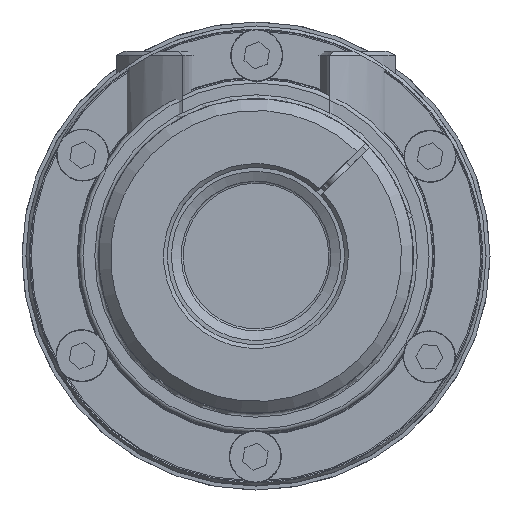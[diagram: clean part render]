
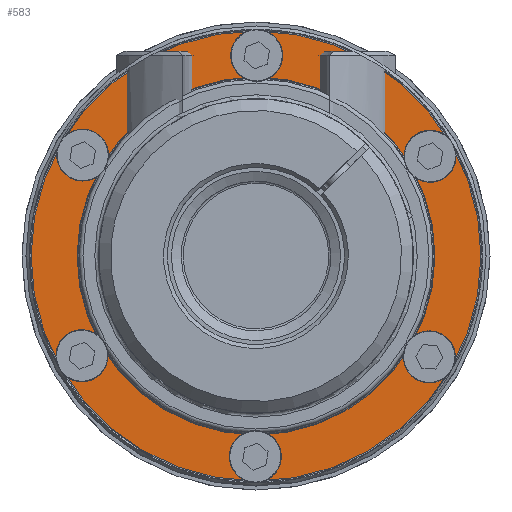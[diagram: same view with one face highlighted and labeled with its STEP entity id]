
A CAD part, left-side view. The second image highlights one B-rep face of the part: STEP entity #583.
In plain terms, the highlighted planar face has unit normal (-1, 0, 0).
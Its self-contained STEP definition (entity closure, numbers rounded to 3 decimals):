
#583 = ADVANCED_FACE( '', ( #1260, #1261, #1262, #1263, #1264, #1265, #1266, #1267 ), #1268, .F. );
#1260 = FACE_OUTER_BOUND( '', #2319, .T. );
#1261 = FACE_BOUND( '', #2320, .T. );
#1262 = FACE_BOUND( '', #2321, .T. );
#1263 = FACE_BOUND( '', #2322, .T. );
#1264 = FACE_BOUND( '', #2323, .T. );
#1265 = FACE_BOUND( '', #2324, .T. );
#1266 = FACE_BOUND( '', #2325, .T. );
#1267 = FACE_BOUND( '', #2326, .T. );
#1268 = PLANE( '', #2327 );
#2319 = EDGE_LOOP( '', ( #3774 ) );
#2320 = EDGE_LOOP( '', ( #3775 ) );
#2321 = EDGE_LOOP( '', ( #3776 ) );
#2322 = EDGE_LOOP( '', ( #3777 ) );
#2323 = EDGE_LOOP( '', ( #3778 ) );
#2324 = EDGE_LOOP( '', ( #3779 ) );
#2325 = EDGE_LOOP( '', ( #3780 ) );
#2326 = EDGE_LOOP( '', ( #3781 ) );
#2327 = AXIS2_PLACEMENT_3D( '', #3782, #3783, #3784 );
#3774 = ORIENTED_EDGE( '', *, *, #6011, .T. );
#3775 = ORIENTED_EDGE( '', *, *, #6012, .T. );
#3776 = ORIENTED_EDGE( '', *, *, #6013, .T. );
#3777 = ORIENTED_EDGE( '', *, *, #6014, .T. );
#3778 = ORIENTED_EDGE( '', *, *, #6015, .T. );
#3779 = ORIENTED_EDGE( '', *, *, #6016, .T. );
#3780 = ORIENTED_EDGE( '', *, *, #6017, .T. );
#3781 = ORIENTED_EDGE( '', *, *, #6018, .T. );
#3782 = CARTESIAN_POINT( '', ( -21., 57.5, 0. ) );
#3783 = DIRECTION( '', ( 1., 0., 0. ) );
#3784 = DIRECTION( '', ( 0., 1., 0. ) );
#6011 = EDGE_CURVE( '', #6965, #6965, #6966, .T. );
#6012 = EDGE_CURVE( '', #6967, #6967, #6968, .T. );
#6013 = EDGE_CURVE( '', #6969, #6969, #6970, .T. );
#6014 = EDGE_CURVE( '', #6971, #6971, #6972, .T. );
#6015 = EDGE_CURVE( '', #6973, #6973, #6974, .T. );
#6016 = EDGE_CURVE( '', #6975, #6975, #6976, .T. );
#6017 = EDGE_CURVE( '', #6977, #6977, #6978, .T. );
#6018 = EDGE_CURVE( '', #6979, #6979, #6980, .T. );
#6965 = VERTEX_POINT( '', #8745 );
#6966 = CIRCLE( '', #8746, 57.2 );
#6967 = VERTEX_POINT( '', #8747 );
#6968 = CIRCLE( '', #8748, 45.3 );
#6969 = VERTEX_POINT( '', #8749 );
#6970 = CIRCLE( '', #8750, 3.324 );
#6971 = VERTEX_POINT( '', #8751 );
#6972 = CIRCLE( '', #8752, 3.324 );
#6973 = VERTEX_POINT( '', #8753 );
#6974 = CIRCLE( '', #8754, 3.324 );
#6975 = VERTEX_POINT( '', #8755 );
#6976 = CIRCLE( '', #8756, 3.324 );
#6977 = VERTEX_POINT( '', #8757 );
#6978 = CIRCLE( '', #8758, 3.324 );
#6979 = VERTEX_POINT( '', #8759 );
#6980 = CIRCLE( '', #8760, 3.324 );
#8745 = CARTESIAN_POINT( '', ( -21., 0., -57.2 ) );
#8746 = AXIS2_PLACEMENT_3D( '', #10988, #10989, #10990 );
#8747 = CARTESIAN_POINT( '', ( -21., 0., -45.3 ) );
#8748 = AXIS2_PLACEMENT_3D( '', #10991, #10992, #10993 );
#8749 = CARTESIAN_POINT( '', ( -21., 47.046, 27.162 ) );
#8750 = AXIS2_PLACEMENT_3D( '', #10994, #10995, #10996 );
#8751 = CARTESIAN_POINT( '', ( -21., 47.046, -27.162 ) );
#8752 = AXIS2_PLACEMENT_3D( '', #10997, #10998, #10999 );
#8753 = CARTESIAN_POINT( '', ( -21., 0., -54.324 ) );
#8754 = AXIS2_PLACEMENT_3D( '', #11000, #11001, #11002 );
#8755 = CARTESIAN_POINT( '', ( -21., -47.046, -27.162 ) );
#8756 = AXIS2_PLACEMENT_3D( '', #11003, #11004, #11005 );
#8757 = CARTESIAN_POINT( '', ( -21., -47.046, 27.162 ) );
#8758 = AXIS2_PLACEMENT_3D( '', #11006, #11007, #11008 );
#8759 = CARTESIAN_POINT( '', ( -21., 0., 54.324 ) );
#8760 = AXIS2_PLACEMENT_3D( '', #11009, #11010, #11011 );
#10988 = CARTESIAN_POINT( '', ( -21., 0., 0. ) );
#10989 = DIRECTION( '', ( -1., 0., 0. ) );
#10990 = DIRECTION( '', ( 0., 0., -1. ) );
#10991 = CARTESIAN_POINT( '', ( -21., 0., 0. ) );
#10992 = DIRECTION( '', ( 1., 0., 0. ) );
#10993 = DIRECTION( '', ( 0., 0., -1. ) );
#10994 = CARTESIAN_POINT( '', ( -21., 44.167, 25.5 ) );
#10995 = DIRECTION( '', ( 1., 0., 0. ) );
#10996 = DIRECTION( '', ( 0., 0.866, 0.5 ) );
#10997 = CARTESIAN_POINT( '', ( -21., 44.167, -25.5 ) );
#10998 = DIRECTION( '', ( 1., 0., 0. ) );
#10999 = DIRECTION( '', ( 0., 0.866, -0.5 ) );
#11000 = CARTESIAN_POINT( '', ( -21., 0., -51. ) );
#11001 = DIRECTION( '', ( 1., 0., 0. ) );
#11002 = DIRECTION( '', ( 0., 0., -1. ) );
#11003 = CARTESIAN_POINT( '', ( -21., -44.167, -25.5 ) );
#11004 = DIRECTION( '', ( 1., 0., 0. ) );
#11005 = DIRECTION( '', ( 0., -0.866, -0.5 ) );
#11006 = CARTESIAN_POINT( '', ( -21., -44.167, 25.5 ) );
#11007 = DIRECTION( '', ( 1., 0., 0. ) );
#11008 = DIRECTION( '', ( 0., -0.866, 0.5 ) );
#11009 = CARTESIAN_POINT( '', ( -21., 0., 51. ) );
#11010 = DIRECTION( '', ( 1., 0., 0. ) );
#11011 = DIRECTION( '', ( 0., 0., 1. ) );
